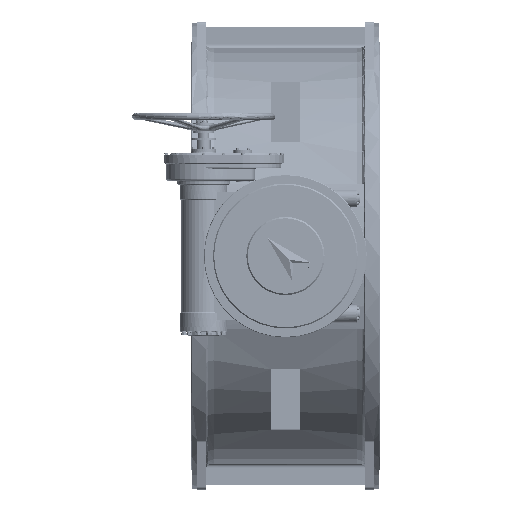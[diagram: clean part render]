
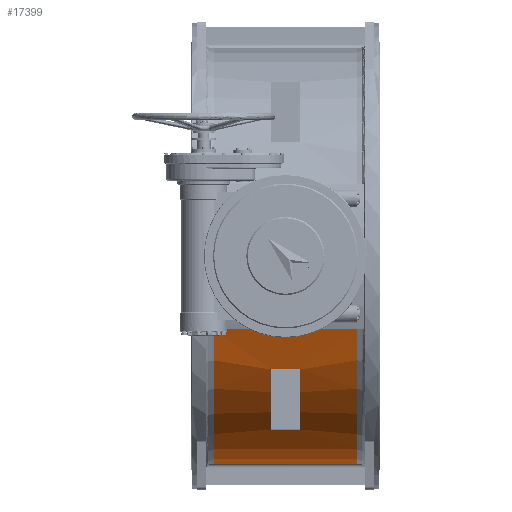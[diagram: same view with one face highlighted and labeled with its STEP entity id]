
A CAD part, top view. The second image highlights one B-rep face of the part: STEP entity #17399.
In plain terms, the highlighted cylindrical face has radius 1046 mm (diameter 2092 mm), a partial arc.
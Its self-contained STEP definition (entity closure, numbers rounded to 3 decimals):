
#7948 = AXIS2_PLACEMENT_3D ( 'NONE', #82874, #82875, #82878 ) ;
#7951 = AXIS2_PLACEMENT_3D ( 'NONE', #82891, #82893, #82896 ) ;
#7953 = AXIS2_PLACEMENT_3D ( 'NONE', #82910, #82912, #82915 ) ;
#7954 = AXIS2_PLACEMENT_3D ( 'NONE', #82928, #82930, #82933 ) ;
#17399 = ADVANCED_FACE ( 'NONE', ( #70202, #70211 ), #70216, .T. ) ;
#25335 = LINE ( 'NONE', #82871, #25343 ) ;
#25337 = CIRCLE ( 'NONE', #7948, 1046. ) ;
#25338 = CIRCLE ( 'NONE', #7951, 1046. ) ;
#25340 = LINE ( 'NONE', #82889, #25349 ) ;
#25343 = VECTOR ( 'NONE', #82857, 1000. ) ;
#25345 = CIRCLE ( 'NONE', #7953, 1046. ) ;
#25347 = LINE ( 'NONE', #82907, #25356 ) ;
#25349 = VECTOR ( 'NONE', #82881, 1000. ) ;
#25351 = CIRCLE ( 'NONE', #7954, 1046. ) ;
#25356 = VECTOR ( 'NONE', #82899, 1000. ) ;
#25358 = LINE ( 'NONE', #82918, #25362 ) ;
#25362 = VECTOR ( 'NONE', #82902, 1000. ) ;
#38375 = VERTEX_POINT ( 'NONE', #85532 ) ;
#38728 = VERTEX_POINT ( 'NONE', #86054 ) ;
#38775 = VERTEX_POINT ( 'NONE', #86095 ) ;
#38793 = VERTEX_POINT ( 'NONE', #86113 ) ;
#38886 = VERTEX_POINT ( 'NONE', #86154 ) ;
#38899 = VERTEX_POINT ( 'NONE', #86161 ) ;
#38903 = VERTEX_POINT ( 'NONE', #86163 ) ;
#38916 = VERTEX_POINT ( 'NONE', #86169 ) ;
#44105 = EDGE_CURVE ( 'NONE', #38886, #38916, #25337, .T. ) ;
#44106 = EDGE_CURVE ( 'NONE', #38903, #38886, #25335, .T. ) ;
#44107 = EDGE_CURVE ( 'NONE', #38899, #38903, #25338, .T. ) ;
#44108 = EDGE_CURVE ( 'NONE', #38916, #38899, #25340, .T. ) ;
#44109 = EDGE_CURVE ( 'NONE', #38728, #38375, #25345, .T. ) ;
#44110 = EDGE_CURVE ( 'NONE', #38728, #38793, #25347, .T. ) ;
#44111 = EDGE_CURVE ( 'NONE', #38793, #38775, #25351, .T. ) ;
#44112 = EDGE_CURVE ( 'NONE', #38775, #38375, #25358, .T. ) ;
#46551 = DIRECTION ( 'NONE',  ( -1., 0., 0. ) ) ;
#46554 = DIRECTION ( 'NONE',  ( 0., 0., 1. ) ) ;
#46559 = CARTESIAN_POINT ( 'NONE',  ( -142.474, 0., 0. ) ) ;
#53360 = EDGE_LOOP ( 'NONE', ( #72680, #72681, #72682, #72683 ) ) ;
#53494 = EDGE_LOOP ( 'NONE', ( #72676, #72677, #72678, #72679 ) ) ;
#70202 = FACE_BOUND ( 'NONE', #53494, .T. ) ;
#70211 = FACE_OUTER_BOUND ( 'NONE', #53360, .T. ) ;
#70216 = CYLINDRICAL_SURFACE ( 'NONE', #100337, 1046. ) ;
#72676 = ORIENTED_EDGE ( 'NONE', *, *, #44105, .F. ) ;
#72677 = ORIENTED_EDGE ( 'NONE', *, *, #44106, .F. ) ;
#72678 = ORIENTED_EDGE ( 'NONE', *, *, #44107, .F. ) ;
#72679 = ORIENTED_EDGE ( 'NONE', *, *, #44108, .F. ) ;
#72680 = ORIENTED_EDGE ( 'NONE', *, *, #44109, .F. ) ;
#72681 = ORIENTED_EDGE ( 'NONE', *, *, #44110, .T. ) ;
#72682 = ORIENTED_EDGE ( 'NONE', *, *, #44111, .T. ) ;
#72683 = ORIENTED_EDGE ( 'NONE', *, *, #44112, .T. ) ;
#82857 = DIRECTION ( 'NONE',  ( -1., 0., 0. ) ) ;
#82871 = CARTESIAN_POINT ( 'NONE',  ( -142.474, 875., 573.141 ) ) ;
#82874 = CARTESIAN_POINT ( 'NONE',  ( -75., 0., 0. ) ) ;
#82875 = DIRECTION ( 'NONE',  ( 1., 0., 0. ) ) ;
#82878 = DIRECTION ( 'NONE',  ( 0., -1., 0. ) ) ;
#82881 = DIRECTION ( 'NONE',  ( 1., 0., 0. ) ) ;
#82889 = CARTESIAN_POINT ( 'NONE',  ( -142.474, 573.141, 875. ) ) ;
#82891 = CARTESIAN_POINT ( 'NONE',  ( 75., 0., 0. ) ) ;
#82893 = DIRECTION ( 'NONE',  ( -1., 0., 0. ) ) ;
#82896 = DIRECTION ( 'NONE',  ( 0., 1., 0. ) ) ;
#82899 = DIRECTION ( 'NONE',  ( 1., 0., 0. ) ) ;
#82902 = DIRECTION ( 'NONE',  ( -1., 0., 0. ) ) ;
#82907 = CARTESIAN_POINT ( 'NONE',  ( -142.474, 36.796, 1045.353 ) ) ;
#82910 = CARTESIAN_POINT ( 'NONE',  ( -360., 0., 0. ) ) ;
#82912 = DIRECTION ( 'NONE',  ( -1., 0., 0. ) ) ;
#82915 = DIRECTION ( 'NONE',  ( 0., 0., 1. ) ) ;
#82918 = CARTESIAN_POINT ( 'NONE',  ( 1136.075, 978.657, 369.25 ) ) ;
#82928 = CARTESIAN_POINT ( 'NONE',  ( 360., 0., 0. ) ) ;
#82930 = DIRECTION ( 'NONE',  ( -1., 0., 0. ) ) ;
#82933 = DIRECTION ( 'NONE',  ( 0., 0., 1. ) ) ;
#85532 = CARTESIAN_POINT ( 'NONE',  ( -360., 978.657, 369.25 ) ) ;
#86054 = CARTESIAN_POINT ( 'NONE',  ( -360., 36.796, 1045.353 ) ) ;
#86095 = CARTESIAN_POINT ( 'NONE',  ( 360., 978.657, 369.25 ) ) ;
#86113 = CARTESIAN_POINT ( 'NONE',  ( 360., 36.796, 1045.353 ) ) ;
#86154 = CARTESIAN_POINT ( 'NONE',  ( -75., 875., 573.141 ) ) ;
#86161 = CARTESIAN_POINT ( 'NONE',  ( 75., 573.141, 875. ) ) ;
#86163 = CARTESIAN_POINT ( 'NONE',  ( 75., 875., 573.141 ) ) ;
#86169 = CARTESIAN_POINT ( 'NONE',  ( -75., 573.141, 875. ) ) ;
#100337 = AXIS2_PLACEMENT_3D ( 'NONE', #46559, #46551, #46554 ) ;
